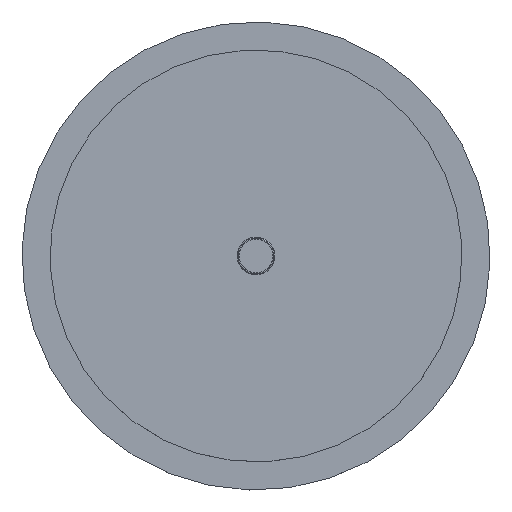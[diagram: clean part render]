
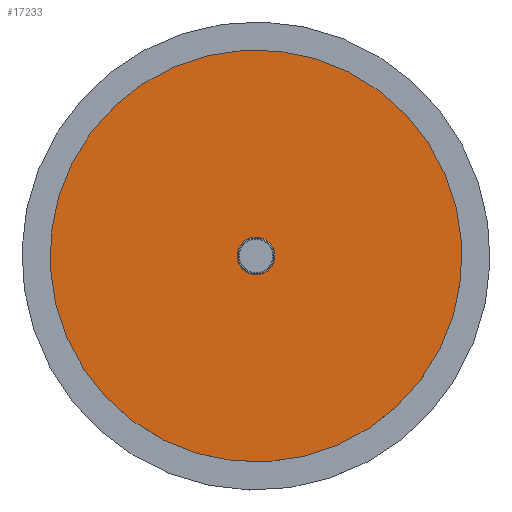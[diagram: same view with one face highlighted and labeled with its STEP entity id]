
A CAD part, top view. The second image highlights one B-rep face of the part: STEP entity #17233.
In plain terms, the highlighted planar face has unit normal (0, 0, 1).
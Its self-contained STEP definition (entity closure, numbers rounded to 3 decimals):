
#187=FACE_BOUND('',#2922,.T.);
#1064=PLANE('',#18376);
#1977=FACE_OUTER_BOUND('',#2921,.T.);
#2921=EDGE_LOOP('',(#14717));
#2922=EDGE_LOOP('',(#14718));
#6943=CIRCLE('',#18294,5.);
#6981=CIRCLE('',#18375,55.);
#8359=VERTEX_POINT('',#26766);
#8406=VERTEX_POINT('',#27017);
#10515=EDGE_CURVE('',#8359,#8359,#6943,.T.);
#10592=EDGE_CURVE('',#8406,#8406,#6981,.T.);
#14717=ORIENTED_EDGE('',*,*,#10592,.F.);
#14718=ORIENTED_EDGE('',*,*,#10515,.F.);
#17233=ADVANCED_FACE('',(#1977,#187),#1064,.F.);
#18294=AXIS2_PLACEMENT_3D('',#26768,#22149,#22150);
#18375=AXIS2_PLACEMENT_3D('',#27019,#22346,#22347);
#18376=AXIS2_PLACEMENT_3D('',#27020,#22348,#22349);
#22149=DIRECTION('center_axis',(0.,0.,
1.));
#22150=DIRECTION('ref_axis',(-0.07,-0.998,0.));
#22346=DIRECTION('center_axis',(0.,0.,
-1.));
#22347=DIRECTION('ref_axis',(-0.728,-0.686,0.));
#22348=DIRECTION('center_axis',(0.,0.,
-1.));
#22349=DIRECTION('ref_axis',(-0.728,-0.686,0.));
#26766=CARTESIAN_POINT('',(0.35,4.988,-42.49));
#26768=CARTESIAN_POINT('Origin',(0.,0.,
-42.49));
#27017=CARTESIAN_POINT('',(40.017,37.731,-42.49));
#27019=CARTESIAN_POINT('Origin',(0.,0.,
-42.49));
#27020=CARTESIAN_POINT('Origin',(0.,0.,
-42.49));
